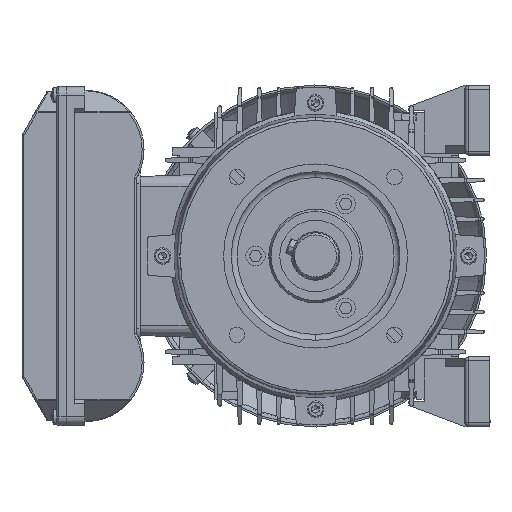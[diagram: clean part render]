
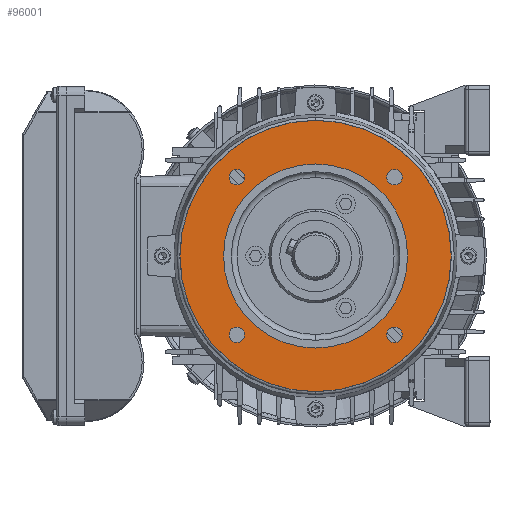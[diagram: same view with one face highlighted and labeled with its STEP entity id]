
A CAD part, left-side view. The second image highlights one B-rep face of the part: STEP entity #96001.
In plain terms, the highlighted planar face has unit normal (-1, 0, 0).
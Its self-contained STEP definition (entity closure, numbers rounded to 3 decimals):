
#4 = DIRECTION ( 'NONE',  ( -1., 0., 0. ) ) ;
#168 = CARTESIAN_POINT ( 'NONE',  ( 3., 0., 70. ) ) ;
#298 = DIRECTION ( 'NONE',  ( 1., 0., 0. ) ) ;
#2100 = AXIS2_PLACEMENT_3D ( 'NONE', #10712, #104976, #76024 ) ;
#3061 = FACE_BOUND ( 'NONE', #12430, .T. ) ;
#5102 = DIRECTION ( 'NONE',  ( 0., 0., -1. ) ) ;
#5683 = ORIENTED_EDGE ( 'NONE', *, *, #82840, .T. ) ;
#6780 = ORIENTED_EDGE ( 'NONE', *, *, #91947, .T. ) ;
#7167 = VERTEX_POINT ( 'NONE', #104679 ) ;
#7789 = AXIS2_PLACEMENT_3D ( 'NONE', #17169, #26166, #101271 ) ;
#7928 = DIRECTION ( 'NONE',  ( 0., 0., -1. ) ) ;
#8932 = ORIENTED_EDGE ( 'NONE', *, *, #60751, .T. ) ;
#9737 = CARTESIAN_POINT ( 'NONE',  ( 3., -40.659, 40.659 ) ) ;
#10712 = CARTESIAN_POINT ( 'NONE',  ( 3., -40.659, -40.659 ) ) ;
#11057 = DIRECTION ( 'NONE',  ( 1., 0., 0. ) ) ;
#11371 = ORIENTED_EDGE ( 'NONE', *, *, #109667, .T. ) ;
#12119 = ORIENTED_EDGE ( 'NONE', *, *, #56937, .F. ) ;
#12430 = EDGE_LOOP ( 'NONE', ( #91774, #30355 ) ) ;
#14493 = ORIENTED_EDGE ( 'NONE', *, *, #79693, .T. ) ;
#16220 = DIRECTION ( 'NONE',  ( 0., 0., 1. ) ) ;
#17169 = CARTESIAN_POINT ( 'NONE',  ( 3., 0., 0. ) ) ;
#18610 = CIRCLE ( 'NONE', #113436, 47.5 ) ;
#19799 = EDGE_CURVE ( 'NONE', #110871, #36066, #106877, .T. ) ;
#20295 = AXIS2_PLACEMENT_3D ( 'NONE', #54448, #63822, #7928 ) ;
#22393 = DIRECTION ( 'NONE',  ( 1., 0., 0. ) ) ;
#23225 = CARTESIAN_POINT ( 'NONE',  ( 3., 0., -47.5 ) ) ;
#23647 = ORIENTED_EDGE ( 'NONE', *, *, #74668, .T. ) ;
#24481 = CARTESIAN_POINT ( 'NONE',  ( 3., 40.659, 36.659 ) ) ;
#25181 = DIRECTION ( 'NONE',  ( -1., 0., 0. ) ) ;
#26166 = DIRECTION ( 'NONE',  ( -1., 0., 0. ) ) ;
#26406 = EDGE_CURVE ( 'NONE', #85994, #106714, #77993, .T. ) ;
#27436 = AXIS2_PLACEMENT_3D ( 'NONE', #70828, #61790, #5102 ) ;
#28806 = VERTEX_POINT ( 'NONE', #117530 ) ;
#30355 = ORIENTED_EDGE ( 'NONE', *, *, #19799, .T. ) ;
#31658 = EDGE_LOOP ( 'NONE', ( #88090, #14493 ) ) ;
#31710 = CIRCLE ( 'NONE', #39985, 4. ) ;
#33744 = FACE_BOUND ( 'NONE', #52536, .T. ) ;
#33921 = DIRECTION ( 'NONE',  ( 1., 0., 0. ) ) ;
#36066 = VERTEX_POINT ( 'NONE', #92629 ) ;
#37467 = DIRECTION ( 'NONE',  ( 0., 0., 1. ) ) ;
#38587 = DIRECTION ( 'NONE',  ( 0., 0., -1. ) ) ;
#39596 = FACE_BOUND ( 'NONE', #31658, .T. ) ;
#39985 = AXIS2_PLACEMENT_3D ( 'NONE', #9737, #66055, #57050 ) ;
#42009 = CARTESIAN_POINT ( 'NONE',  ( 3., 40.659, 40.659 ) ) ;
#44814 = CARTESIAN_POINT ( 'NONE',  ( 3., -40.659, 44.659 ) ) ;
#48156 = ORIENTED_EDGE ( 'NONE', *, *, #73601, .F. ) ;
#48543 = VERTEX_POINT ( 'NONE', #44814 ) ;
#49965 = CIRCLE ( 'NONE', #27436, 4. ) ;
#50720 = CARTESIAN_POINT ( 'NONE',  ( 3., 0., 47.5 ) ) ;
#52536 = EDGE_LOOP ( 'NONE', ( #23647, #11371 ) ) ;
#53743 = CIRCLE ( 'NONE', #65583, 70. ) ;
#54448 = CARTESIAN_POINT ( 'NONE',  ( 3., -40.659, -40.659 ) ) ;
#55640 = VERTEX_POINT ( 'NONE', #99060 ) ;
#56937 = EDGE_CURVE ( 'NONE', #67228, #99154, #18610, .T. ) ;
#57050 = DIRECTION ( 'NONE',  ( 0., 0., -1. ) ) ;
#57968 = DIRECTION ( 'NONE',  ( 0., 0., 1. ) ) ;
#59134 = DIRECTION ( 'NONE',  ( 0., 0., -1. ) ) ;
#59170 = DIRECTION ( 'NONE',  ( 0., 0., -1. ) ) ;
#60751 = EDGE_CURVE ( 'NONE', #86861, #7167, #86640, .T. ) ;
#61478 = FACE_BOUND ( 'NONE', #105207, .T. ) ;
#61790 = DIRECTION ( 'NONE',  ( 1., 0., 0. ) ) ;
#63822 = DIRECTION ( 'NONE',  ( 1., 0., 0. ) ) ;
#65583 = AXIS2_PLACEMENT_3D ( 'NONE', #81178, #25181, #16220 ) ;
#66055 = DIRECTION ( 'NONE',  ( 1., 0., 0. ) ) ;
#66084 = EDGE_LOOP ( 'NONE', ( #12119, #48156 ) ) ;
#66423 = CIRCLE ( 'NONE', #7789, 47.5 ) ;
#66960 = CARTESIAN_POINT ( 'NONE',  ( 3., 40.659, 40.659 ) ) ;
#67228 = VERTEX_POINT ( 'NONE', #50720 ) ;
#69561 = EDGE_CURVE ( 'NONE', #36066, #110871, #115468, .T. ) ;
#70828 = CARTESIAN_POINT ( 'NONE',  ( 3., -40.659, 40.659 ) ) ;
#71214 = VERTEX_POINT ( 'NONE', #81511 ) ;
#71742 = FACE_OUTER_BOUND ( 'NONE', #116812, .T. ) ;
#73601 = EDGE_CURVE ( 'NONE', #99154, #67228, #66423, .T. ) ;
#74668 = EDGE_CURVE ( 'NONE', #28806, #48543, #49965, .T. ) ;
#76024 = DIRECTION ( 'NONE',  ( 0., 0., -1. ) ) ;
#76367 = DIRECTION ( 'NONE',  ( 0., 0., -1. ) ) ;
#76746 = DIRECTION ( 'NONE',  ( -1., 0., 0. ) ) ;
#77283 = CARTESIAN_POINT ( 'NONE',  ( 3., 0., -70. ) ) ;
#77957 = CARTESIAN_POINT ( 'NONE',  ( 3., 0., 0. ) ) ;
#77993 = CIRCLE ( 'NONE', #86802, 70. ) ;
#79693 = EDGE_CURVE ( 'NONE', #55640, #71214, #111921, .T. ) ;
#81178 = CARTESIAN_POINT ( 'NONE',  ( 3., 0., 0. ) ) ;
#81511 = CARTESIAN_POINT ( 'NONE',  ( 3., -40.659, -44.659 ) ) ;
#81883 = AXIS2_PLACEMENT_3D ( 'NONE', #96700, #87373, #59134 ) ;
#82840 = EDGE_CURVE ( 'NONE', #7167, #86861, #83718, .T. ) ;
#83718 = CIRCLE ( 'NONE', #97541, 4. ) ;
#84188 = EDGE_CURVE ( 'NONE', #71214, #55640, #112111, .T. ) ;
#85187 = CARTESIAN_POINT ( 'NONE',  ( 3., 40.659, -40.659 ) ) ;
#85994 = VERTEX_POINT ( 'NONE', #77283 ) ;
#86640 = CIRCLE ( 'NONE', #115420, 4. ) ;
#86802 = AXIS2_PLACEMENT_3D ( 'NONE', #77957, #76746, #57968 ) ;
#86861 = VERTEX_POINT ( 'NONE', #24481 ) ;
#87373 = DIRECTION ( 'NONE',  ( 1., 0., 0. ) ) ;
#88090 = ORIENTED_EDGE ( 'NONE', *, *, #84188, .T. ) ;
#91774 = ORIENTED_EDGE ( 'NONE', *, *, #69561, .T. ) ;
#91947 = EDGE_CURVE ( 'NONE', #106714, #85994, #53743, .T. ) ;
#92629 = CARTESIAN_POINT ( 'NONE',  ( 3., 40.659, -44.659 ) ) ;
#96001 = ADVANCED_FACE ( 'NONE', ( #33744, #39596, #3061, #61478, #99456, #71742 ), #108986, .F. ) ;
#96700 = CARTESIAN_POINT ( 'NONE',  ( 3., 40.659, -40.659 ) ) ;
#97541 = AXIS2_PLACEMENT_3D ( 'NONE', #42009, #22393, #59170 ) ;
#99060 = CARTESIAN_POINT ( 'NONE',  ( 3., -40.659, -36.659 ) ) ;
#99154 = VERTEX_POINT ( 'NONE', #23225 ) ;
#99456 = FACE_BOUND ( 'NONE', #66084, .T. ) ;
#99617 = DIRECTION ( 'NONE',  ( 0., 0., -1. ) ) ;
#100286 = AXIS2_PLACEMENT_3D ( 'NONE', #85187, #298, #38587 ) ;
#101271 = DIRECTION ( 'NONE',  ( 0., 0., 1. ) ) ;
#103835 = CARTESIAN_POINT ( 'NONE',  ( 3., 40.659, -36.659 ) ) ;
#104196 = AXIS2_PLACEMENT_3D ( 'NONE', #117618, #33921, #99617 ) ;
#104679 = CARTESIAN_POINT ( 'NONE',  ( 3., 40.659, 44.659 ) ) ;
#104976 = DIRECTION ( 'NONE',  ( 1., 0., 0. ) ) ;
#105207 = EDGE_LOOP ( 'NONE', ( #8932, #5683 ) ) ;
#106714 = VERTEX_POINT ( 'NONE', #168 ) ;
#106877 = CIRCLE ( 'NONE', #100286, 4. ) ;
#108986 = PLANE ( 'NONE',  #104196 ) ;
#109667 = EDGE_CURVE ( 'NONE', #48543, #28806, #31710, .T. ) ;
#110531 = CARTESIAN_POINT ( 'NONE',  ( 3., 0., 0. ) ) ;
#110871 = VERTEX_POINT ( 'NONE', #103835 ) ;
#111921 = CIRCLE ( 'NONE', #2100, 4. ) ;
#112111 = CIRCLE ( 'NONE', #20295, 4. ) ;
#112762 = ORIENTED_EDGE ( 'NONE', *, *, #26406, .T. ) ;
#113436 = AXIS2_PLACEMENT_3D ( 'NONE', #110531, #4, #37467 ) ;
#115420 = AXIS2_PLACEMENT_3D ( 'NONE', #66960, #11057, #76367 ) ;
#115468 = CIRCLE ( 'NONE', #81883, 4. ) ;
#116812 = EDGE_LOOP ( 'NONE', ( #6780, #112762 ) ) ;
#117530 = CARTESIAN_POINT ( 'NONE',  ( 3., -40.659, 36.659 ) ) ;
#117618 = CARTESIAN_POINT ( 'NONE',  ( 3., 47.5, 0. ) ) ;
